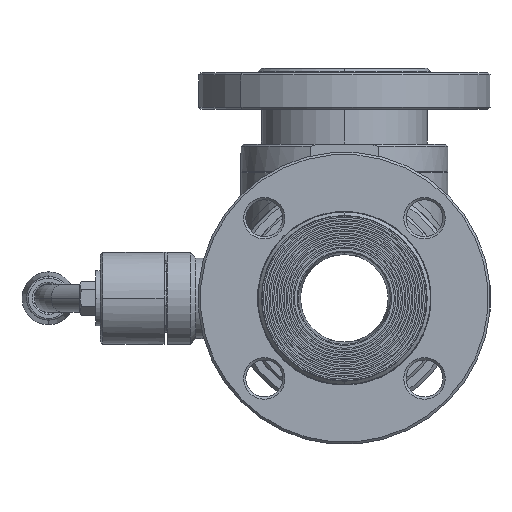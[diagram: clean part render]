
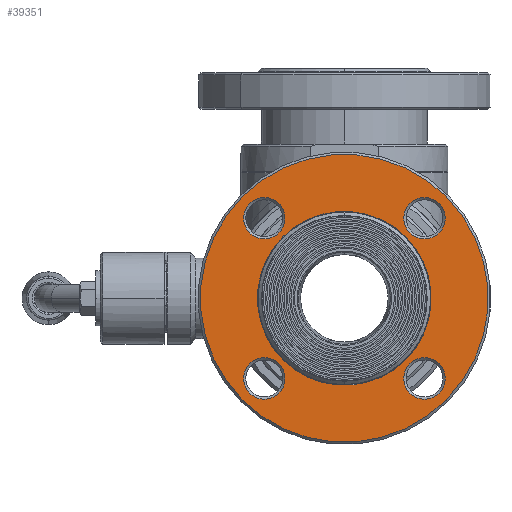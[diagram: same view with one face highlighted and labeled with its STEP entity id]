
A CAD part, left-side view. The second image highlights one B-rep face of the part: STEP entity #39351.
In plain terms, the highlighted planar face has unit normal (-1, 0, 0).
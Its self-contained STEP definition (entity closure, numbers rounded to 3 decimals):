
#3836=CARTESIAN_POINT('',(-98.,0.,0.));
#3837=DIRECTION('',(1.,0.,0.));
#3838=DIRECTION('',(0.,0.707,-0.707));
#3839=AXIS2_PLACEMENT_3D('',#3836,#3837,#3838);
#3896=CARTESIAN_POINT('',(-98.,0.,0.));
#3897=DIRECTION('',(-1.,0.,0.));
#3898=DIRECTION('',(0.,0.707,-0.707));
#3899=AXIS2_PLACEMENT_3D('',#3896,#3897,#3898);
#3911=CARTESIAN_POINT('',(-98.,0.,0.));
#3912=DIRECTION('',(-1.,0.,0.));
#3913=DIRECTION('',(0.,0.707,-0.707));
#3914=AXIS2_PLACEMENT_3D('',#3911,#3912,#3913);
#3941=CARTESIAN_POINT('',(-98.,0.,0.));
#3942=DIRECTION('',(1.,0.,0.));
#3943=DIRECTION('',(0.,0.707,-0.707));
#3944=AXIS2_PLACEMENT_3D('',#3941,#3942,#3943);
#4389=CARTESIAN_POINT('',(-98.,34.79,-34.79));
#4390=DIRECTION('',(1.,0.,0.));
#4391=DIRECTION('',(0.,0.707,-0.707));
#4392=AXIS2_PLACEMENT_3D('',#4389,#4390,#4391);
#4419=CARTESIAN_POINT('',(-98.,34.79,-34.79));
#4420=DIRECTION('',(1.,0.,0.));
#4421=DIRECTION('',(0.,-0.707,0.707));
#4422=AXIS2_PLACEMENT_3D('',#4419,#4420,#4421);
#4495=CARTESIAN_POINT('',(-98.,34.79,34.79));
#4496=DIRECTION('',(1.,0.,0.));
#4497=DIRECTION('',(0.,0.707,-0.707));
#4498=AXIS2_PLACEMENT_3D('',#4495,#4496,#4497);
#4511=CARTESIAN_POINT('',(-98.,34.79,34.79));
#4512=DIRECTION('',(1.,0.,0.));
#4513=DIRECTION('',(0.,-0.707,0.707));
#4514=AXIS2_PLACEMENT_3D('',#4511,#4512,#4513);
#4601=CARTESIAN_POINT('',(-98.,-34.79,34.79));
#4602=DIRECTION('',(1.,0.,0.));
#4603=DIRECTION('',(0.,0.707,-0.707));
#4604=AXIS2_PLACEMENT_3D('',#4601,#4602,#4603);
#4631=CARTESIAN_POINT('',(-98.,-34.79,34.79));
#4632=DIRECTION('',(1.,0.,0.));
#4633=DIRECTION('',(0.,-0.707,0.707));
#4634=AXIS2_PLACEMENT_3D('',#4631,#4632,#4633);
#4707=CARTESIAN_POINT('',(-98.,-34.79,-34.79));
#4708=DIRECTION('',(1.,0.,0.));
#4709=DIRECTION('',(0.,0.707,-0.707));
#4710=AXIS2_PLACEMENT_3D('',#4707,#4708,#4709);
#4737=CARTESIAN_POINT('',(-98.,-34.79,-34.79));
#4738=DIRECTION('',(1.,0.,0.));
#4739=DIRECTION('',(0.,-0.707,0.707));
#4740=AXIS2_PLACEMENT_3D('',#4737,#4738,#4739);
#34695=CARTESIAN_POINT('',(-98.,26.693,-26.693));
#34696=CARTESIAN_POINT('',(-98.,-26.693,26.693));
#34697=VERTEX_POINT('',#34695);
#34698=VERTEX_POINT('',#34696);
#34699=CARTESIAN_POINT('',(-98.,44.194,-44.194));
#34700=CARTESIAN_POINT('',(-98.,-44.194,44.194));
#34701=VERTEX_POINT('',#34699);
#34702=VERTEX_POINT('',#34700);
#34751=CARTESIAN_POINT('',(-98.,-41.154,41.154));
#34752=CARTESIAN_POINT('',(-98.,-28.426,28.426));
#34753=VERTEX_POINT('',#34751);
#34754=VERTEX_POINT('',#34752);
#34759=CARTESIAN_POINT('',(-98.,-41.154,-28.426));
#34760=CARTESIAN_POINT('',(-98.,-28.426,-41.154));
#34761=VERTEX_POINT('',#34759);
#34762=VERTEX_POINT('',#34760);
#34767=CARTESIAN_POINT('',(-98.,28.426,-28.426));
#34768=CARTESIAN_POINT('',(-98.,41.154,-41.154));
#34769=VERTEX_POINT('',#34767);
#34770=VERTEX_POINT('',#34768);
#34775=CARTESIAN_POINT('',(-98.,41.154,28.426));
#34776=CARTESIAN_POINT('',(-98.,28.426,41.154));
#34777=VERTEX_POINT('',#34775);
#34778=VERTEX_POINT('',#34776);
#39312=CARTESIAN_POINT('',(-98.,0.,0.));
#39313=DIRECTION('',(-1.,0.,0.));
#39314=DIRECTION('',(0.,0.707,-0.707));
#39315=AXIS2_PLACEMENT_3D('',#39312,#39313,#39314);
#39316=PLANE('',#39315);
#39318=ORIENTED_EDGE('',*,*,#39317,.F.);
#39320=ORIENTED_EDGE('',*,*,#39319,.T.);
#39321=EDGE_LOOP('',(#39318,#39320));
#39322=FACE_OUTER_BOUND('',#39321,.F.);
#39323=ORIENTED_EDGE('',*,*,#39264,.F.);
#39324=ORIENTED_EDGE('',*,*,#39305,.T.);
#39325=EDGE_LOOP('',(#39323,#39324));
#39326=FACE_BOUND('',#39325,.F.);
#39328=ORIENTED_EDGE('',*,*,#39327,.F.);
#39330=ORIENTED_EDGE('',*,*,#39329,.F.);
#39331=EDGE_LOOP('',(#39328,#39330));
#39332=FACE_BOUND('',#39331,.F.);
#39334=ORIENTED_EDGE('',*,*,#39333,.F.);
#39336=ORIENTED_EDGE('',*,*,#39335,.F.);
#39337=EDGE_LOOP('',(#39334,#39336));
#39338=FACE_BOUND('',#39337,.F.);
#39340=ORIENTED_EDGE('',*,*,#39339,.F.);
#39342=ORIENTED_EDGE('',*,*,#39341,.F.);
#39343=EDGE_LOOP('',(#39340,#39342));
#39344=FACE_BOUND('',#39343,.F.);
#39346=ORIENTED_EDGE('',*,*,#39345,.F.);
#39348=ORIENTED_EDGE('',*,*,#39347,.F.);
#39349=EDGE_LOOP('',(#39346,#39348));
#39350=FACE_BOUND('',#39349,.F.);
#39351=ADVANCED_FACE('',(#39322,#39326,#39332,#39338,#39344,#39350),#39316,.T.);
#3840=CIRCLE('',#3839,37.75);
#3900=CIRCLE('',#3899,37.75);
#3915=CIRCLE('',#3914,62.5);
#3945=CIRCLE('',#3944,62.5);
#4393=CIRCLE('',#4392,9.);
#4423=CIRCLE('',#4422,9.);
#4499=CIRCLE('',#4498,9.);
#4515=CIRCLE('',#4514,9.);
#4605=CIRCLE('',#4604,9.);
#4635=CIRCLE('',#4634,9.);
#4711=CIRCLE('',#4710,9.);
#4741=CIRCLE('',#4740,9.);
#39264=EDGE_CURVE('',#34697,#34698,#3840,.T.);
#39305=EDGE_CURVE('',#34697,#34698,#3900,.T.);
#39317=EDGE_CURVE('',#34701,#34702,#3915,.T.);
#39319=EDGE_CURVE('',#34701,#34702,#3945,.T.);
#39327=EDGE_CURVE('',#34770,#34769,#4393,.T.);
#39329=EDGE_CURVE('',#34769,#34770,#4423,.T.);
#39333=EDGE_CURVE('',#34777,#34778,#4499,.T.);
#39335=EDGE_CURVE('',#34778,#34777,#4515,.T.);
#39339=EDGE_CURVE('',#34754,#34753,#4605,.T.);
#39341=EDGE_CURVE('',#34753,#34754,#4635,.T.);
#39345=EDGE_CURVE('',#34762,#34761,#4711,.T.);
#39347=EDGE_CURVE('',#34761,#34762,#4741,.T.);
